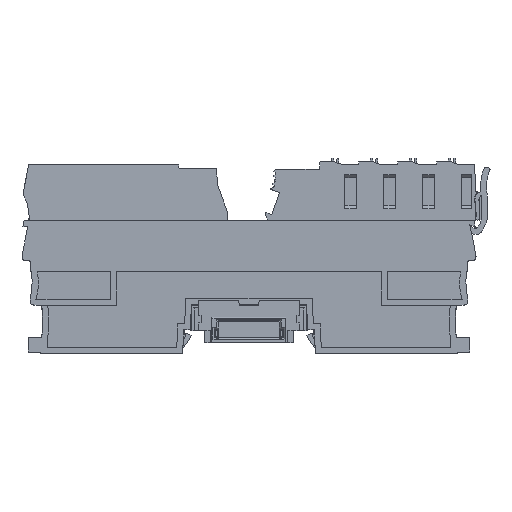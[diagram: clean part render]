
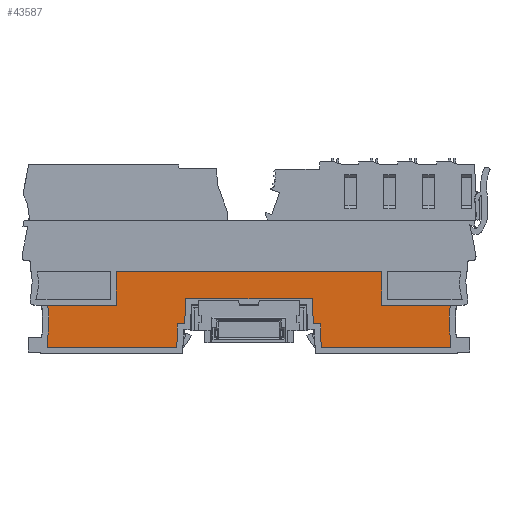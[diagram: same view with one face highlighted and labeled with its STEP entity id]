
A CAD part, left-side view. The second image highlights one B-rep face of the part: STEP entity #43587.
In plain terms, the highlighted planar face has unit normal (-1, 0, 0).
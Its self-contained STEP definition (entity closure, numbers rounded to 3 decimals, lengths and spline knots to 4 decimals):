
#2937=DIRECTION('',(0.,-1.,0.));
#2938=VECTOR('',#2937,0.7294);
#2939=CARTESIAN_POINT('',(0.0079,1.4479,
0.2598));
#2940=LINE('',#2939,#2938);
#5244=DIRECTION('',(0.,-0.035,0.999));
#5245=VECTOR('',#5244,0.2521);
#5246=CARTESIAN_POINT('',(0.0079,0.0775,
-0.189));
#5247=LINE('',#5246,#5245);
#5248=DIRECTION('',(0.,-1.,0.));
#5249=VECTOR('',#5248,1.3753);
#5250=CARTESIAN_POINT('',(0.0079,1.4528,
-0.189));
#5251=LINE('',#5250,#5249);
#5252=DIRECTION('',(0.,0.,-1.));
#5253=VECTOR('',#5252,0.076);
#5254=CARTESIAN_POINT('',(0.0079,1.4528,
-0.113));
#5255=LINE('',#5254,#5253);
#5256=CARTESIAN_POINT('',(0.0079,2.7598,
0.0906));
#5257=DIRECTION('',(1.,0.,0.));
#5258=DIRECTION('',(0.,-1.,0.));
#5259=AXIS2_PLACEMENT_3D('',#5256,#5257,#5258);
#5261=CARTESIAN_POINT('',(0.0079,2.7598,
0.0906));
#5262=DIRECTION('',(1.,0.,0.));
#5263=DIRECTION('',(0.,-0.992,0.128));
#5264=AXIS2_PLACEMENT_3D('',#5261,#5262,#5263);
#5266=DIRECTION('',(0.,0.,-1.));
#5267=VECTOR('',#5266,0.3583);
#5268=CARTESIAN_POINT('',(0.0079,0.7185,
0.6181));
#5269=LINE('',#5268,#5267);
#5270=DIRECTION('',(0.,1.,0.));
#5271=VECTOR('',#5270,2.815);
#5272=CARTESIAN_POINT('',(0.0079,-2.0965,
0.6181));
#5273=LINE('',#5272,#5271);
#5274=DIRECTION('',(0.,1.,0.));
#5275=VECTOR('',#5274,0.7294);
#5276=CARTESIAN_POINT('',(0.0079,-2.8258,
0.2598));
#5277=LINE('',#5276,#5275);
#5278=CARTESIAN_POINT('',(0.0079,-4.1378,
0.0906));
#5279=DIRECTION('',(1.,0.,0.));
#5280=DIRECTION('',(0.,1.,0.));
#5281=AXIS2_PLACEMENT_3D('',#5278,#5279,#5280);
#5283=CARTESIAN_POINT('',(0.0079,-4.1378,
0.0906));
#5284=DIRECTION('',(1.,0.,0.));
#5285=DIRECTION('',(0.,0.988,-0.154));
#5286=AXIS2_PLACEMENT_3D('',#5283,#5284,#5285);
#5288=DIRECTION('',(0.,-0.035,-0.999));
#5289=VECTOR('',#5288,0.2521);
#5290=CARTESIAN_POINT('',(0.0079,-1.4467,
0.063));
#5291=LINE('',#5290,#5289);
#5292=DIRECTION('',(0.,-1.,0.));
#5293=VECTOR('',#5292,0.0754);
#5294=CARTESIAN_POINT('',(0.0079,-1.3712,
0.063));
#5295=LINE('',#5294,#5293);
#5296=DIRECTION('',(0.,-0.035,-0.999));
#5297=VECTOR('',#5296,0.2659);
#5298=CARTESIAN_POINT('',(0.0079,-1.3619,
0.3287));
#5299=LINE('',#5298,#5297);
#5300=DIRECTION('',(0.,-0.035,0.999));
#5301=VECTOR('',#5300,0.2659);
#5302=CARTESIAN_POINT('',(0.0079,-0.0067,
0.063));
#5303=LINE('',#5302,#5301);
#5304=DIRECTION('',(0.,-1.,0.));
#5305=VECTOR('',#5304,0.0754);
#5306=CARTESIAN_POINT('',(0.0079,0.0687,
0.063));
#5307=LINE('',#5306,#5305);
#5340=DIRECTION('',(0.,1.,0.));
#5341=VECTOR('',#5340,1.3459);
#5342=CARTESIAN_POINT('',(0.0079,-1.3619,
0.3287));
#5343=LINE('',#5342,#5341);
#5360=DIRECTION('',(0.,1.,0.));
#5361=VECTOR('',#5360,1.3753);
#5362=CARTESIAN_POINT('',(0.0079,-2.8307,
-0.189));
#5363=LINE('',#5362,#5361);
#5368=DIRECTION('',(0.,0.,-1.));
#5369=VECTOR('',#5368,0.076);
#5370=CARTESIAN_POINT('',(0.0079,-2.8307,
-0.113));
#5371=LINE('',#5370,#5369);
#5380=DIRECTION('',(0.,0.,-1.));
#5381=VECTOR('',#5380,0.3583);
#5382=CARTESIAN_POINT('',(0.0079,-2.0965,
0.6181));
#5383=LINE('',#5382,#5381);
#34920=CARTESIAN_POINT('',(0.0079,1.4528,
-0.189));
#34921=VERTEX_POINT('',#34920);
#34922=CARTESIAN_POINT('',(0.0079,0.0775,
-0.189));
#34923=VERTEX_POINT('',#34922);
#34940=CARTESIAN_POINT('',(0.0079,0.0687,
0.063));
#34941=CARTESIAN_POINT('',(0.0079,-0.0067,
0.063));
#34942=VERTEX_POINT('',#34940);
#34943=VERTEX_POINT('',#34941);
#36086=CARTESIAN_POINT('',(0.0079,1.437,
0.0906));
#36087=CARTESIAN_POINT('',(0.0079,1.4528,
-0.113));
#36088=VERTEX_POINT('',#36086);
#36089=VERTEX_POINT('',#36087);
#36090=CARTESIAN_POINT('',(0.0079,1.4479,
0.2598));
#36091=VERTEX_POINT('',#36090);
#36175=CARTESIAN_POINT('',(0.0079,0.7185,
0.2598));
#36176=VERTEX_POINT('',#36175);
#36225=CARTESIAN_POINT('',(0.0079,-2.8258,
0.2598));
#36226=VERTEX_POINT('',#36225);
#36227=CARTESIAN_POINT('',(0.0079,-2.0965,
0.2598));
#36228=VERTEX_POINT('',#36227);
#36233=CARTESIAN_POINT('',(0.0079,-2.8307,
-0.113));
#36234=VERTEX_POINT('',#36233);
#36235=CARTESIAN_POINT('',(0.0079,-2.815,
0.0906));
#36236=VERTEX_POINT('',#36235);
#36237=CARTESIAN_POINT('',(0.0079,0.7185,
0.6181));
#36238=VERTEX_POINT('',#36237);
#36239=CARTESIAN_POINT('',(0.0079,-2.0965,
0.6181));
#36240=VERTEX_POINT('',#36239);
#36241=CARTESIAN_POINT('',(0.0079,-2.8307,
-0.189));
#36242=VERTEX_POINT('',#36241);
#36243=CARTESIAN_POINT('',(0.0079,-1.4555,
-0.189));
#36244=VERTEX_POINT('',#36243);
#36245=CARTESIAN_POINT('',(0.0079,-1.4467,
0.063));
#36246=VERTEX_POINT('',#36245);
#36247=CARTESIAN_POINT('',(0.0079,-1.3712,
0.063));
#36248=VERTEX_POINT('',#36247);
#36249=CARTESIAN_POINT('',(0.0079,-1.3619,
0.3287));
#36250=VERTEX_POINT('',#36249);
#36251=CARTESIAN_POINT('',(0.0079,-0.016,
0.3287));
#36252=VERTEX_POINT('',#36251);
#43544=CARTESIAN_POINT('',(0.0079,1.2412,
-0.1033));
#43545=DIRECTION('',(1.,0.,0.));
#43546=DIRECTION('',(0.,1.,0.));
#43547=AXIS2_PLACEMENT_3D('',#43544,#43545,#43546);
#43548=PLANE('',#43547);
#43550=ORIENTED_EDGE('',*,*,#43549,.F.);
#43552=ORIENTED_EDGE('',*,*,#43551,.F.);
#43554=ORIENTED_EDGE('',*,*,#43553,.F.);
#43556=ORIENTED_EDGE('',*,*,#43555,.F.);
#43558=ORIENTED_EDGE('',*,*,#43557,.F.);
#43559=ORIENTED_EDGE('',*,*,#40621,.T.);
#43561=ORIENTED_EDGE('',*,*,#43560,.F.);
#43563=ORIENTED_EDGE('',*,*,#43562,.F.);
#43565=ORIENTED_EDGE('',*,*,#43564,.T.);
#43566=ORIENTED_EDGE('',*,*,#43519,.F.);
#43567=ORIENTED_EDGE('',*,*,#43532,.F.);
#43568=ORIENTED_EDGE('',*,*,#43539,.F.);
#43570=ORIENTED_EDGE('',*,*,#43569,.T.);
#43572=ORIENTED_EDGE('',*,*,#43571,.T.);
#43574=ORIENTED_EDGE('',*,*,#43573,.F.);
#43576=ORIENTED_EDGE('',*,*,#43575,.F.);
#43578=ORIENTED_EDGE('',*,*,#43577,.F.);
#43580=ORIENTED_EDGE('',*,*,#43579,.T.);
#43582=ORIENTED_EDGE('',*,*,#43581,.F.);
#43584=ORIENTED_EDGE('',*,*,#43583,.F.);
#43585=EDGE_LOOP('',(#43550,#43552,#43554,#43556,#43558,#43559,#43561,#43563,
#43565,#43566,#43567,#43568,#43570,#43572,#43574,#43576,#43578,#43580,#43582,
#43584));
#43586=FACE_OUTER_BOUND('',#43585,.F.);
#43587=ADVANCED_FACE('',(#43586),#43548,.F.);
#5260=CIRCLE('',#5259,1.3228);
#5265=CIRCLE('',#5264,1.3228);
#5282=CIRCLE('',#5281,1.3228);
#5287=CIRCLE('',#5286,1.3228);
#40621=EDGE_CURVE('',#36091,#36176,#2940,.T.);
#43519=EDGE_CURVE('',#36226,#36228,#5277,.T.);
#43532=EDGE_CURVE('',#36236,#36226,#5282,.T.);
#43539=EDGE_CURVE('',#36234,#36236,#5287,.T.);
#43549=EDGE_CURVE('',#34923,#34942,#5247,.T.);
#43551=EDGE_CURVE('',#34921,#34923,#5251,.T.);
#43553=EDGE_CURVE('',#36089,#34921,#5255,.T.);
#43555=EDGE_CURVE('',#36088,#36089,#5260,.T.);
#43557=EDGE_CURVE('',#36091,#36088,#5265,.T.);
#43560=EDGE_CURVE('',#36238,#36176,#5269,.T.);
#43562=EDGE_CURVE('',#36240,#36238,#5273,.T.);
#43564=EDGE_CURVE('',#36240,#36228,#5383,.T.);
#43569=EDGE_CURVE('',#36234,#36242,#5371,.T.);
#43571=EDGE_CURVE('',#36242,#36244,#5363,.T.);
#43573=EDGE_CURVE('',#36246,#36244,#5291,.T.);
#43575=EDGE_CURVE('',#36248,#36246,#5295,.T.);
#43577=EDGE_CURVE('',#36250,#36248,#5299,.T.);
#43579=EDGE_CURVE('',#36250,#36252,#5343,.T.);
#43581=EDGE_CURVE('',#34943,#36252,#5303,.T.);
#43583=EDGE_CURVE('',#34942,#34943,#5307,.T.);
